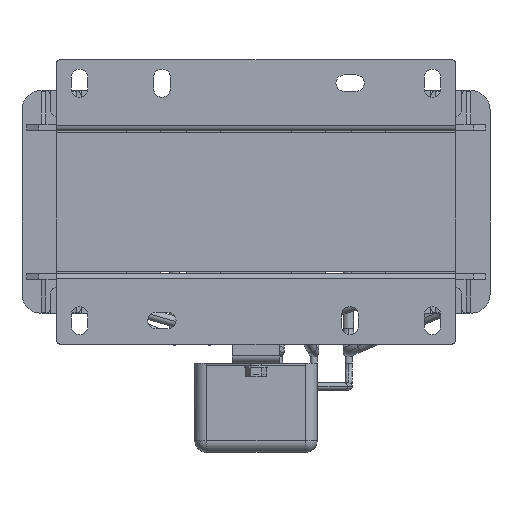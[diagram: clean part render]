
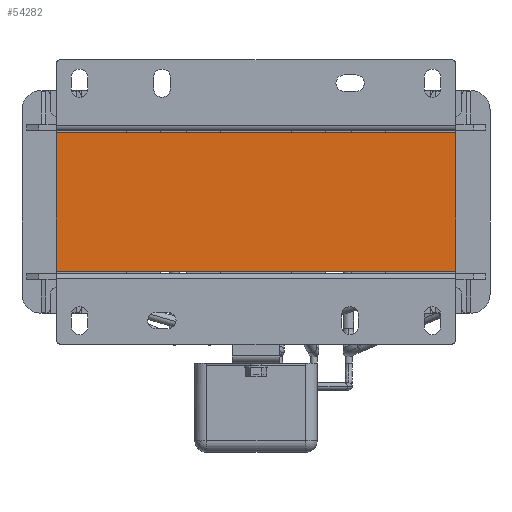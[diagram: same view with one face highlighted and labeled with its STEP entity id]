
A CAD part, front view. The second image highlights one B-rep face of the part: STEP entity #54282.
In plain terms, the highlighted planar face has unit normal (0, -1, 0).
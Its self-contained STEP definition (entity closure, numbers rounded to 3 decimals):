
#2329 = EDGE_LOOP ( 'NONE', ( #29388, #25763, #17339, #10918 ) ) ;
#7066 = EDGE_CURVE ( 'NONE', #53761, #27421, #57057, .T. ) ;
#7576 = CARTESIAN_POINT ( 'NONE',  ( 85., -76., 59. ) ) ;
#7671 = VERTEX_POINT ( 'NONE', #59288 ) ;
#8194 = DIRECTION ( 'NONE',  ( -1., 0., 0. ) ) ;
#8462 = AXIS2_PLACEMENT_3D ( 'NONE', #32251, #29256, #63992 ) ;
#10918 = ORIENTED_EDGE ( 'NONE', *, *, #38204, .F. ) ;
#11165 = CARTESIAN_POINT ( 'NONE',  ( 85., -76., 59. ) ) ;
#11611 = CARTESIAN_POINT ( 'NONE',  ( -85., -76., 0. ) ) ;
#12043 = LINE ( 'NONE', #36455, #18431 ) ;
#16746 = CARTESIAN_POINT ( 'NONE',  ( -85., -76., 59. ) ) ;
#17060 = FACE_OUTER_BOUND ( 'NONE', #2329, .T. ) ;
#17339 = ORIENTED_EDGE ( 'NONE', *, *, #19418, .F. ) ;
#18053 = DIRECTION ( 'NONE',  ( 1., 0., 0. ) ) ;
#18431 = VECTOR ( 'NONE', #26557, 1000. ) ;
#18757 = VECTOR ( 'NONE', #8194, 1000. ) ;
#19418 = EDGE_CURVE ( 'NONE', #7671, #57704, #12043, .T. ) ;
#23620 = CARTESIAN_POINT ( 'NONE',  ( 0., -76., 59. ) ) ;
#23711 = LINE ( 'NONE', #11611, #18757 ) ;
#25763 = ORIENTED_EDGE ( 'NONE', *, *, #64512, .F. ) ;
#26557 = DIRECTION ( 'NONE',  ( 0., 0., 1. ) ) ;
#27421 = VERTEX_POINT ( 'NONE', #46685 ) ;
#28590 = LINE ( 'NONE', #23620, #49039 ) ;
#29256 = DIRECTION ( 'NONE',  ( 0., 1., 0. ) ) ;
#29388 = ORIENTED_EDGE ( 'NONE', *, *, #7066, .F. ) ;
#32251 = CARTESIAN_POINT ( 'NONE',  ( -85., -76., 59. ) ) ;
#36455 = CARTESIAN_POINT ( 'NONE',  ( -85., -76., 59. ) ) ;
#37177 = PLANE ( 'NONE',  #8462 ) ;
#38204 = EDGE_CURVE ( 'NONE', #27421, #7671, #23711, .T. ) ;
#42865 = DIRECTION ( 'NONE',  ( 0., 0., -1. ) ) ;
#46685 = CARTESIAN_POINT ( 'NONE',  ( 85., -76., 0. ) ) ;
#49039 = VECTOR ( 'NONE', #18053, 1000. ) ;
#53761 = VERTEX_POINT ( 'NONE', #7576 ) ;
#54282 = ADVANCED_FACE ( 'NONE', ( #17060 ), #37177, .F. ) ;
#57057 = LINE ( 'NONE', #11165, #60367 ) ;
#57704 = VERTEX_POINT ( 'NONE', #16746 ) ;
#59288 = CARTESIAN_POINT ( 'NONE',  ( -85., -76., 0. ) ) ;
#60367 = VECTOR ( 'NONE', #42865, 1000. ) ;
#63992 = DIRECTION ( 'NONE',  ( -1., 0., 0. ) ) ;
#64512 = EDGE_CURVE ( 'NONE', #57704, #53761, #28590, .T. ) ;
